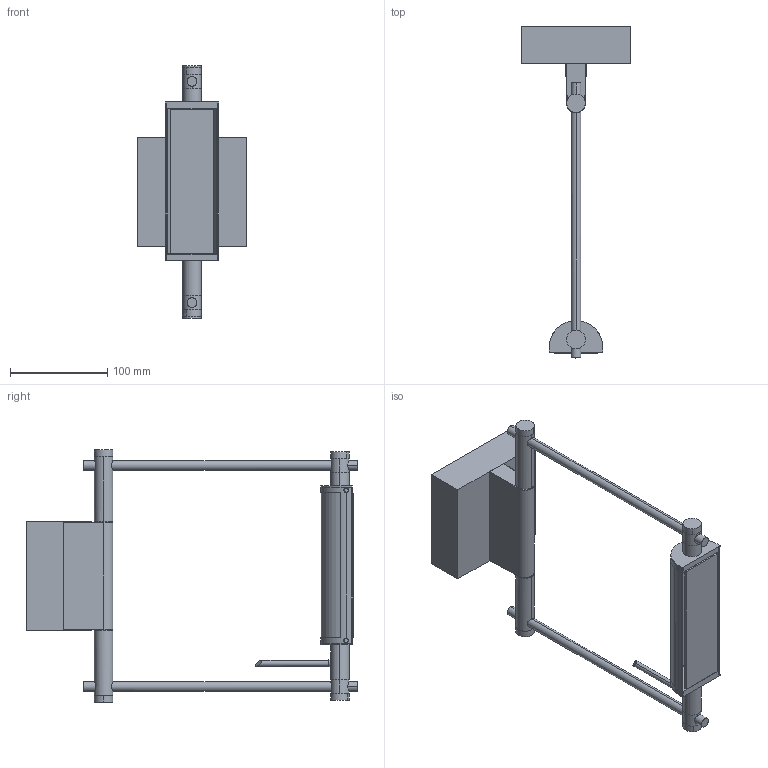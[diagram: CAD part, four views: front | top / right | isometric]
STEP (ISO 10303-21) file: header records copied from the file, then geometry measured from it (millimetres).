
FILE_DESCRIPTION (( 'STEP AP214' ), '1' );
FILE_NAME ('3D_LOGO_WALL.STEP', '2018-03-15T13:37:26', ( 'Utente' ), ( '' ), 'SwSTEP 2.0', 'SolidWorks 2016', '' );
FILE_SCHEMA (( 'AUTOMOTIVE_DESIGN' ));
Length unit declared in the file: millimetre
Products named in the file (4): Parte1-1^3D_LOGO_WALL; 052LOG000100MARTIMM-2^3D_LOGO_WALL; Group3^3D_LOGO_WALL; 3D_LOGO_WALL
Assembly tree (3 placements, depth 2):
  3D_LOGO_WALL
    Group3^3D_LOGO_WALL
    052LOG000100MARTIMM-2^3D_LOGO_WALL
    Parte1-1^3D_LOGO_WALL
Bounding box: 112 x 340.52 x 259.12 mm (x, y, z)
Volume: 734573 mm3; surface area: 146287.6 mm2
Topology: 3 solids, 3 shells, 274 faces, 773 edges, 493 vertices
Faces by surface type: plane 123, cylinder 101, cone 28, bspline 18, torus 4
Entity records: 11900 total; most frequent: CARTESIAN_POINT 4273, ORIENTED_EDGE 1546, DIRECTION 1282, EDGE_CURVE 773, VERTEX_POINT 493, AXIS2_PLACEMENT_3D 457, LINE 368, VECTOR 368
